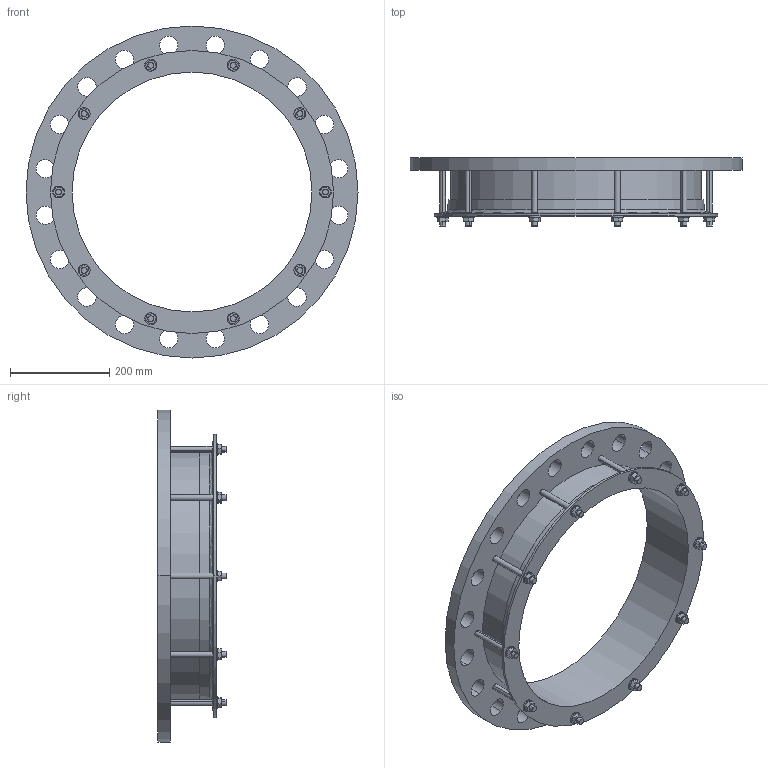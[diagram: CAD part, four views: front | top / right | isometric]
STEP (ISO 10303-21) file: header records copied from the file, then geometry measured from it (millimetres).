
FILE_DESCRIPTION((''),'2;1');
FILE_NAME('480X450PN25','2019-04-04T',('mfairey'),('Glynwed Pipe Systems'),'CREO PARAMETRIC BY PTC INC, 2016130','CREO PARAMETRIC BY PTC INC, 2016130','');
FILE_SCHEMA(('CONFIG_CONTROL_DESIGN'));
Length unit declared in the file: millimetre
Products named in the file (1): 480X450PN25
Bounding box: 670 x 137.45 x 670 mm (x, y, z)
Volume: 6019777.5 mm3; surface area: 873248.4 mm2
Topology: 1 solids, 1 shells, 208 faces, 548 edges, 364 vertices
Faces by surface type: cylinder 108, plane 94, cone 4, torus 2
Entity records: 7174 total; most frequent: CARTESIAN_POINT 1728, DIRECTION 1132, ORIENTED_EDGE 1096, EDGE_CURVE 548, AXIS2_PLACEMENT_3D 420, VERTEX_POINT 364, VECTOR 292, LINE 292
